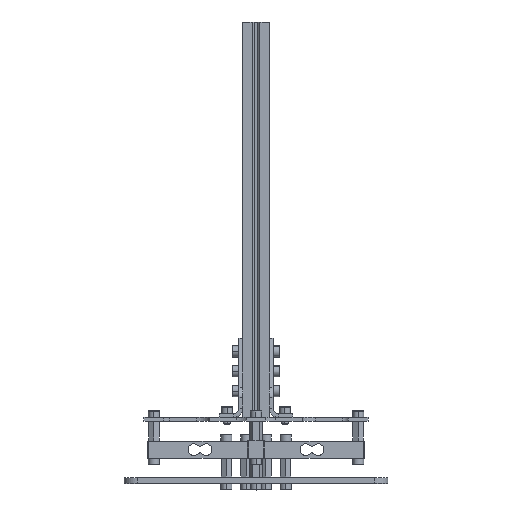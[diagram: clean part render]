
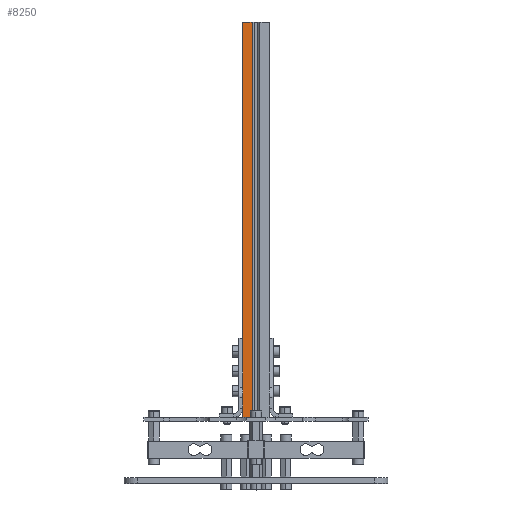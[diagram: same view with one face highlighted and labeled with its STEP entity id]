
A CAD part, top view. The second image highlights one B-rep face of the part: STEP entity #8250.
In plain terms, the highlighted planar face has unit normal (0, 0, 1).
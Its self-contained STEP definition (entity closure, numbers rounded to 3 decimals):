
#178 = CARTESIAN_POINT ( 'NONE',  ( -10., 300., 10. ) ) ;
#700 = ORIENTED_EDGE ( 'NONE', *, *, #6808, .T. ) ;
#915 = ORIENTED_EDGE ( 'NONE', *, *, #5238, .T. ) ;
#942 = VECTOR ( 'NONE', #10418, 1000. ) ;
#974 = VECTOR ( 'NONE', #1332, 1000. ) ;
#1332 = DIRECTION ( 'NONE',  ( 0., 1., 0. ) ) ;
#1543 = DIRECTION ( 'NONE',  ( -1., 0., 0. ) ) ;
#1551 = VERTEX_POINT ( 'NONE', #7407 ) ;
#2004 = EDGE_CURVE ( 'NONE', #8276, #9647, #5095, .T. ) ;
#2398 = EDGE_LOOP ( 'NONE', ( #9152, #8922, #915, #700 ) ) ;
#2718 = VECTOR ( 'NONE', #11422, 1000. ) ;
#3623 = EDGE_CURVE ( 'NONE', #5939, #9647, #3797, .T. ) ;
#3797 = LINE ( 'NONE', #11365, #974 ) ;
#4207 = LINE ( 'NONE', #178, #942 ) ;
#4313 = LINE ( 'NONE', #8652, #5278 ) ;
#5095 = LINE ( 'NONE', #8792, #2718 ) ;
#5238 = EDGE_CURVE ( 'NONE', #8276, #1551, #4207, .T. ) ;
#5278 = VECTOR ( 'NONE', #7810, 1000. ) ;
#5939 = VERTEX_POINT ( 'NONE', #5969 ) ;
#5969 = CARTESIAN_POINT ( 'NONE',  ( -3., 0., 10. ) ) ;
#6046 = DIRECTION ( 'NONE',  ( 0., 0., -1. ) ) ;
#6808 = EDGE_CURVE ( 'NONE', #1551, #5939, #4313, .T. ) ;
#7052 = CARTESIAN_POINT ( 'NONE',  ( -10., 300., 10. ) ) ;
#7407 = CARTESIAN_POINT ( 'NONE',  ( -10., 0., 10. ) ) ;
#7810 = DIRECTION ( 'NONE',  ( 1., 0., 0. ) ) ;
#8213 = FACE_OUTER_BOUND ( 'NONE', #2398, .T. ) ;
#8250 = ADVANCED_FACE ( 'NONE', ( #8213 ), #11419, .F. ) ;
#8276 = VERTEX_POINT ( 'NONE', #7052 ) ;
#8597 = CARTESIAN_POINT ( 'NONE',  ( -3., 300., 10. ) ) ;
#8652 = CARTESIAN_POINT ( 'NONE',  ( -10., 0., 10. ) ) ;
#8792 = CARTESIAN_POINT ( 'NONE',  ( -10., 300., 10. ) ) ;
#8922 = ORIENTED_EDGE ( 'NONE', *, *, #2004, .F. ) ;
#9152 = ORIENTED_EDGE ( 'NONE', *, *, #3623, .T. ) ;
#9647 = VERTEX_POINT ( 'NONE', #8597 ) ;
#10418 = DIRECTION ( 'NONE',  ( 0., -1., 0. ) ) ;
#10910 = AXIS2_PLACEMENT_3D ( 'NONE', #11460, #6046, #1543 ) ;
#11365 = CARTESIAN_POINT ( 'NONE',  ( -3., 0., 10. ) ) ;
#11419 = PLANE ( 'NONE',  #10910 ) ;
#11422 = DIRECTION ( 'NONE',  ( 1., 0., 0. ) ) ;
#11460 = CARTESIAN_POINT ( 'NONE',  ( -10., 300., 10. ) ) ;
